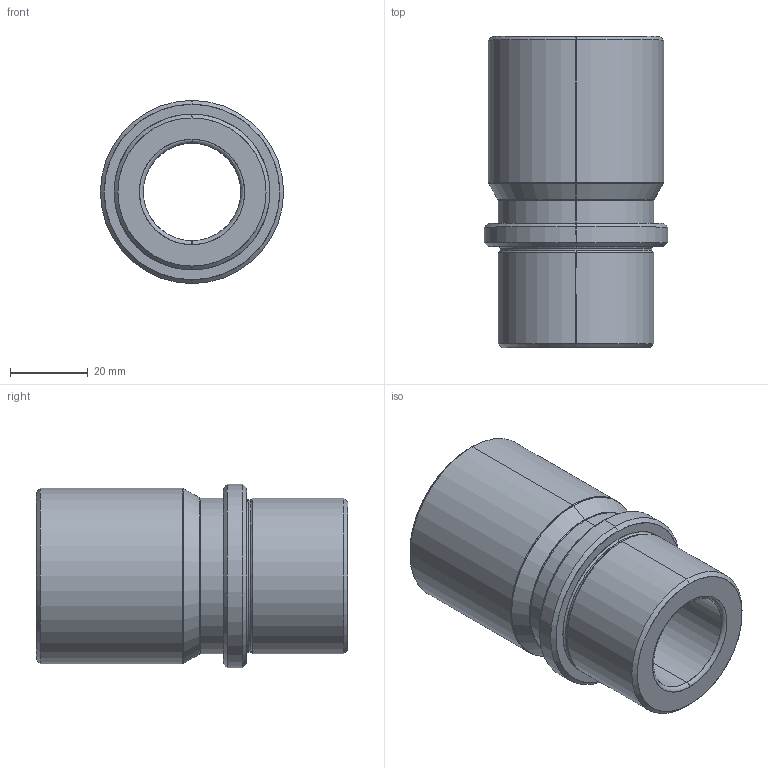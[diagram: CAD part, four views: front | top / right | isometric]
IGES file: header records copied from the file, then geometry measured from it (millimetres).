
Start section: SolidWorks IGES file using analytic representation for surfaces
Global section: file name: C:\Documents and Settings\kalite-mail\Desktop\IGS\D32\D32_25X26.IGS; native system: SolidWorks 2008; preprocessor: SolidWorks 2008; author: kalite-mail; date: 080707.165847; units: millimetre
Bounding box: 47 x 80 x 47 mm (x, y, z)
Surface area: 19669.5 mm2 (no closed solid volume)
Topology: 0 solids, 0 shells, 38 faces, 584 edges, 584 vertices
Faces by surface type: revolution 22, bspline 16
